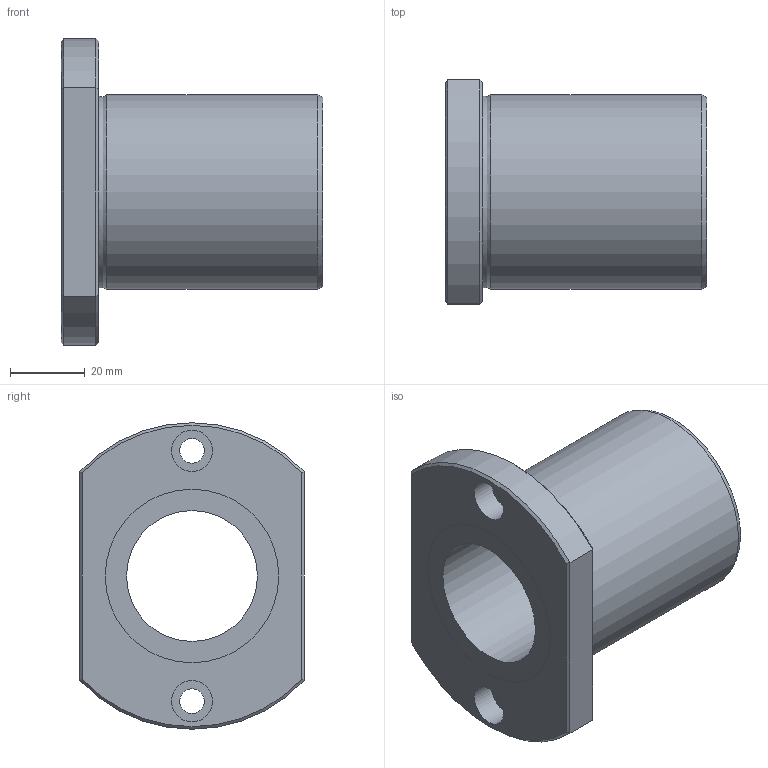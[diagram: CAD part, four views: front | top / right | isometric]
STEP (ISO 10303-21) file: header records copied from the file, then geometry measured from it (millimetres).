
FILE_DESCRIPTION((''),'2;1');
FILE_NAME('D:\製品 (図面)\カタログ用3D\リニアベアリング関連\STEP形式\LFT\LFT35.stp','2010-06-04T09:19:10',('Tsuchiya'),(''),'Autodesk Inventor 10','Autodesk Inventor 10','');
FILE_SCHEMA(('AUTOMOTIVE_DESIGN { 1 0 10303 214 1 1 1 1 }'));
Length unit declared in the file: millimetre
Products named in the file (1): LFT35
Bounding box: 70 x 60 x 82 mm (x, y, z)
Volume: 102485.3 mm3; surface area: 27145.6 mm2
Topology: 1 solids, 1 shells, 29 faces, 56 edges, 34 vertices
Faces by surface type: plane 13, cylinder 10, cone 4, torus 1, bspline 1
Full cylindrical faces by diameter (mm): 6.6 x2, 11 x2, 35 x1, 46.4 x2, 52 x1
Entity records: 787 total; most frequent: CARTESIAN_POINT 196, DIRECTION 122, ORIENTED_EDGE 92, AXIS2_PLACEMENT_3D 55, EDGE_LOOP 50, EDGE_CURVE 46, VERTEX_POINT 34, FACE_OUTER_BOUND 29
